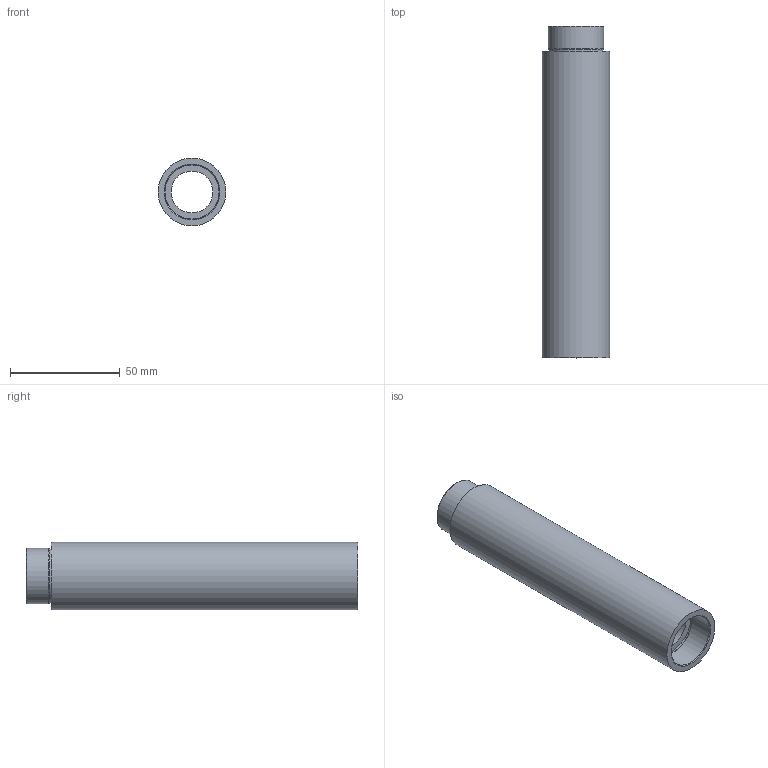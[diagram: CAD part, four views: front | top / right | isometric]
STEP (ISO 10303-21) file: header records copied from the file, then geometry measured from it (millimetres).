
FILE_DESCRIPTION (( 'STEP AP203' ), '1' );
FILE_NAME ('BTA-19-CM-CF-0140.STEP', '2012-04-11T14:07:51', ( '' ), ( '' ), 'SwSTEP 2.0', 'SolidWorks 2012', '' );
FILE_SCHEMA (( 'CONFIG_CONTROL_DESIGN' ));
Length unit declared in the file: inch
Products named in the file (1): BTA-19-CM-CF-0140
Bounding box: 30.94 x 151.13 x 30.94 mm (x, y, z)
Volume: 65225 mm3; surface area: 24740.5 mm2
Topology: 1 solids, 1 shells, 14 faces, 24 edges, 14 vertices
Faces by surface type: cylinder 6, plane 4, cone 4
Full cylindrical faces by diameter (mm): 19.05 x1, 24.638 x2, 25.4 x2, 30.937 x1
Entity records: 367 total; most frequent: DIRECTION 58, CARTESIAN_POINT 43, AXIS2_PLACEMENT_3D 29, ORIENTED_EDGE 28, EDGE_LOOP 28, FACE_OUTER_BOUND 20, EDGE_CURVE 14, CIRCLE 14
